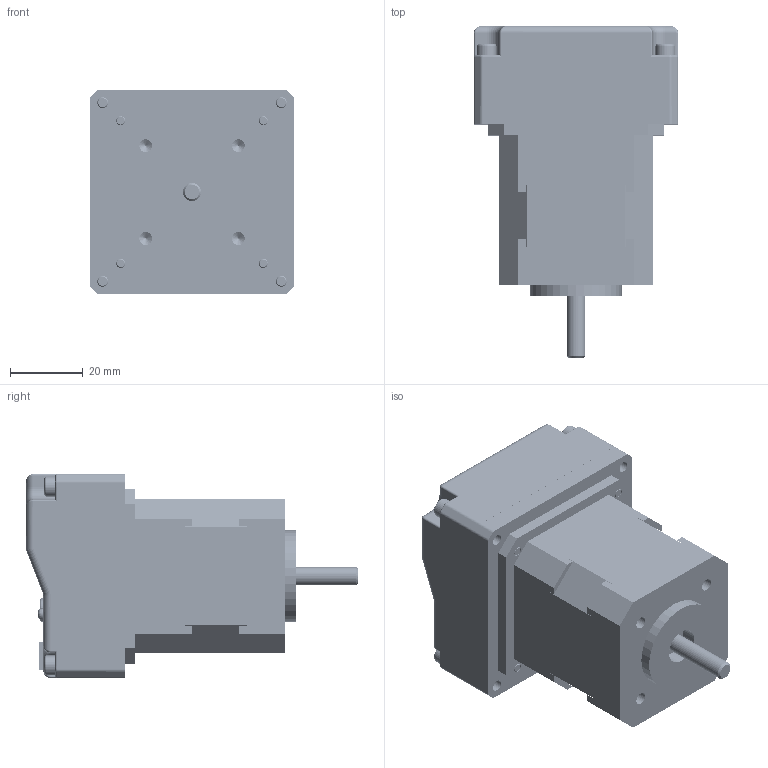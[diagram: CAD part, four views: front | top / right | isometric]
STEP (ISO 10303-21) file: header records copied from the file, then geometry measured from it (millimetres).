
FILE_DESCRIPTION((''),'2;1');
FILE_NAME('DM4D1_NEMA17_ASM','2020-07-29T09:24:28',('Matteo Maccalli'),(''),'CREO PARAMETRIC BY PTC INC, 2019344','CREO PARAMETRIC BY PTC INC, 2019344','');
FILE_SCHEMA(('AUTOMOTIVE_DESIGN { 1 0 10303 214 1 1 1 1 }'));
Products named in the file (90): FRONT_FLANGE_MT17FB; STACK_MT17FB17054M3; REAR_FLANGE_MT17FB; FRONT_SHAFT_MT17FB; MT17FB17054M3_ASM; LMED5067_FLANGE_B; M3X30_SVASATA_CROCE; CONTROFLANGIA_DM4D1; MC-01040; BOARD_1_2_3; BODY_1_2_3; PINSARRAYLR_1_1_2_3; PINSARRAYLR_2_1_2_3; PINSARRAYLR_3_1_2_3; PINSARRAYLR_4_1_2_3; PINSARRAYLR_ASM_1_2_3_ASM; ASSEMBLY_ASM_1_2_3_ASM; GDH02S04-CONDIP_1_2_3_ASM; DIP1_1_2_3_ASM; LFPAK33_SOT1210_NXP_1_2_3; Q304_1_2_3_ASM; MCV1_5-3-G_3_5_1_2_3; PXC_1843619_03_MCV-1-5-3-G-3-_2_ASM; CN5_1_2_3_ASM; 1781120_1_2_3; CN3_1_2_3_ASM; 50229_1_2_3; CN1_1_2_3_ASM; SCE-D8_1_2_3_4_5_6_1; SCE-D8_1_2_3_4_5_6_2; SCE-D8_1_2_3_4_5_6_3; SCE-D8_1_2_3_4_5_6_4; SCE-D8_1_2_3_4_5_6_5; SCE-D8_1_2_3_4_5_6_ASM; CE200_1_2_3_ASM; XTAL_SMD_5X3E2_1_2_3; XT400_1_2_3_ASM; EXTRUDED_1_2_3; 844424768_1_2_3_ASM; W600_1_2_3_ASM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
Assembly tree (165 placements, depth 8):
  DM4D1_NEMA17_ASM
    MT17FB17054M3_ASM
      FRONT_FLANGE_MT17FB
      STACK_MT17FB17054M3
      REAR_FLANGE_MT17FB
      FRONT_SHAFT_MT17FB
    LMED5067_FLANGE_B
    M3X30_SVASATA_CROCE  x4
    CONTROFLANGIA_DM4D1
    MC-01040
    ASM0002_ASM
      PCB_1_2_3_ASM
        BOARD_1_2_3
        DIP1_1_2_3_ASM
          GDH02S04-CONDIP_1_2_3_ASM
            ASSEMBLY_ASM_1_2_3_ASM
              BODY_1_2_3
              PINSARRAYLR_ASM_1_2_3_ASM
                PINSARRAYLR_1_1_2_3
                PINSARRAYLR_2_1_2_3
                PINSARRAYLR_3_1_2_3
                PINSARRAYLR_4_1_2_3
        Q304_1_2_3_ASM
          LFPAK33_SOT1210_NXP_1_2_3
        CN5_1_2_3_ASM
          PXC_1843619_03_MCV-1-5-3-G-3-_2_ASM
            MCV1_5-3-G_3_5_1_2_3
        CN3_1_2_3_ASM
          1781120_1_2_3
        CN1_1_2_3_ASM
          50229_1_2_3
        CE200_1_2_3_ASM
          SCE-D8_1_2_3_4_5_6_ASM
            SCE-D8_1_2_3_4_5_6_1
            SCE-D8_1_2_3_4_5_6_2
            SCE-D8_1_2_3_4_5_6_3
            SCE-D8_1_2_3_4_5_6_4
            SCE-D8_1_2_3_4_5_6_5
        XT400_1_2_3_ASM
          XTAL_SMD_5X3E2_1_2_3
        W600_1_2_3_ASM
          844424768_1_2_3_ASM
            EXTRUDED_1_2_3
        U700_1_2_3_ASM
          PG-DSO-8-7_1_2_3_4_5_6_ASM
            PG-DSO-8-7_1_2_3_4_5_6_1
            PG-DSO-8-7_1_2_3_4_5_6_2
            PG-DSO-8-7_1_2_3_4_5_6_3
            PG-DSO-8-7_1_2_3_4_5_6_4
            PG-DSO-8-7_1_2_3_4_5_6_5
            PG-DSO-8-7_1_2_3_4_5_6_6
            PG-DSO-8-7_1_2_3_4_5_6_7
            PG-DSO-8-7_1_2_3_4_5_6_8
            PG-DSO-8-7_1_2_3_4_5_6_9
            PG-DSO-8-7_1_2_3_4_5_6_10
            PG-DSO-8-7_1_2_3_4_5_6_11
            PG-DSO-8-7_1_2_3_4_5_6_12
            PG-DSO-8-7_1_2_3_4_5_6_13
            PG-DSO-8-7_1_2_3_4_5_6_14
            PG-DSO-8-7_1_2_3_4_5_6_15
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Bounding box: 56 x 91 x 56 mm (x, y, z)
Volume: 110260.1 mm3; surface area: 61382.5 mm2
Topology: 143 solids, 155 shells, 7030 faces, 17473 edges, 10377 vertices
Faces by surface type: plane 2877, cylinder 2733, sphere 600, torus 580, bspline 161, cone 76, extrusion 3
Entity records: 145481 total; most frequent: CARTESIAN_POINT 31607, ORIENTED_EDGE 16464, DIRECTION 16354, PRESENTATION_STYLE_ASSIGNMENT 8431, EDGE_CURVE 8256, STYLED_ITEM 7537, CURVE_STYLE 7312, VECTOR 6158
